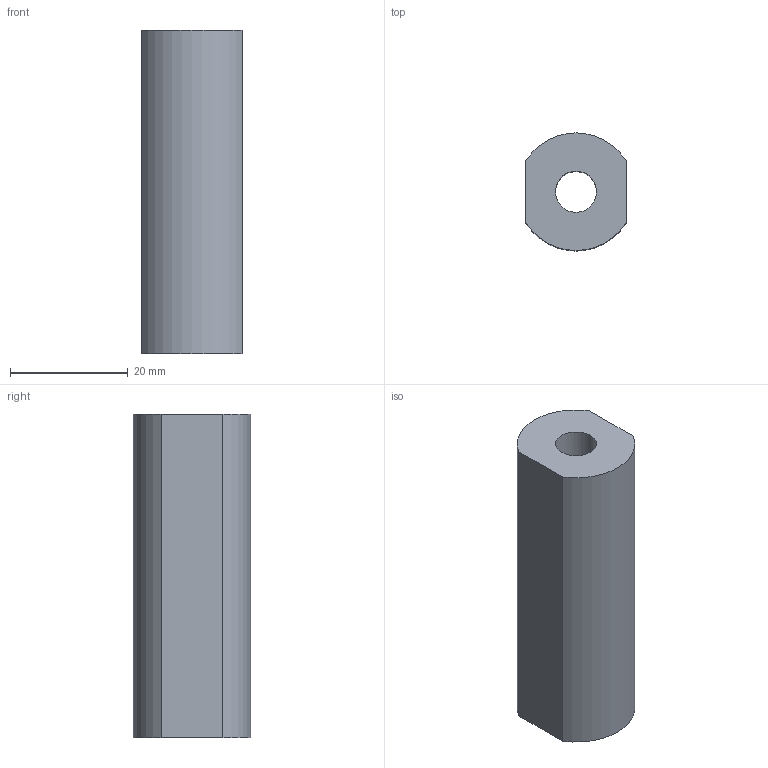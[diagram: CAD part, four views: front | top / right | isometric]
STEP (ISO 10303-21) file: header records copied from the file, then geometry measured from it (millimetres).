
FILE_DESCRIPTION (( 'STEP AP214' ), '1' );
FILE_NAME ('FGDT 3X20.step', '2017-04-05T07:36:56', ( '' ), ( '' ), 'SwSTEP 2.0', 'SolidWorks 2015', '' );
FILE_SCHEMA (( 'AUTOMOTIVE_DESIGN' ));
Length unit declared in the file: millimetre
Products named in the file (1): FGDT 3X20
Bounding box: 17 x 20 x 55 mm (x, y, z)
Volume: 13984.6 mm3; surface area: 5112.1 mm2
Topology: 1 solids, 1 shells, 8 faces, 18 edges, 12 vertices
Faces by surface type: cylinder 4, plane 4
Entity records: 345 total; most frequent: DIRECTION 44, CARTESIAN_POINT 39, ORIENTED_EDGE 36, EDGE_CURVE 18, AXIS2_PLACEMENT_3D 17, VERTEX_POINT 12, VECTOR 10, UNCERTAINTY_MEASURE_WITH_UNIT 10
